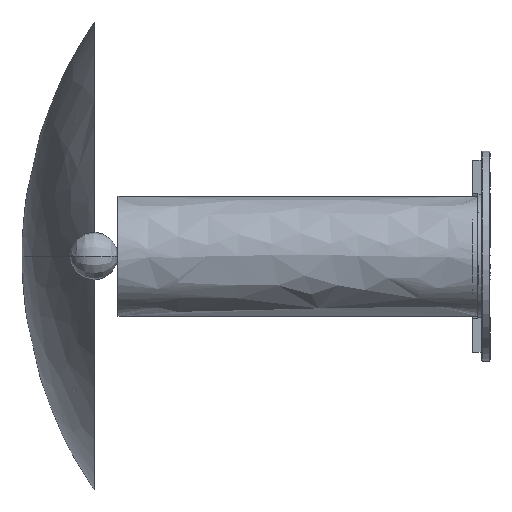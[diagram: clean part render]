
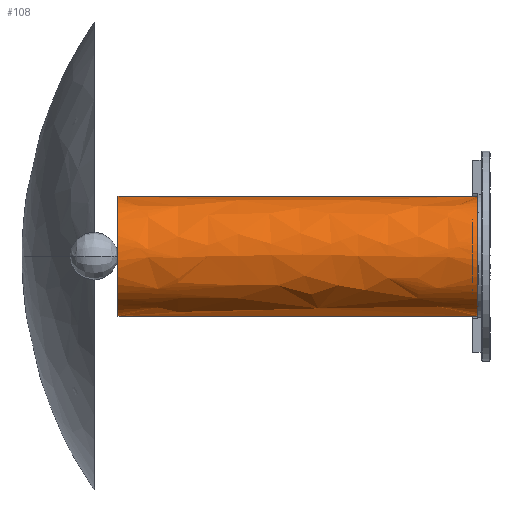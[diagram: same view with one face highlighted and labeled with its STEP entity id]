
A CAD part, left-side view. The second image highlights one B-rep face of the part: STEP entity #108.
In plain terms, the highlighted free-form (B-spline) face has degree [3, 2] with [4, 5] control points.
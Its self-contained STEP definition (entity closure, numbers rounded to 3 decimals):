
#108=ADVANCED_FACE($,(#169),#760,.T.);
#169=FACE_OUTER_BOUND($,#231,.T.);
#231=EDGE_LOOP($,(#363,#364,#365,#366));
#363=ORIENTED_EDGE($,*,*,#578,.T.);
#364=ORIENTED_EDGE($,*,*,#579,.T.);
#365=ORIENTED_EDGE($,*,*,#575,.F.);
#366=ORIENTED_EDGE($,*,*,#577,.T.);
#575=EDGE_CURVE($,#687,#688,#827,.T.);
#577=EDGE_CURVE($,#687,#689,#829,.T.);
#578=EDGE_CURVE($,#689,#690,#830,.T.);
#579=EDGE_CURVE($,#690,#688,#831,.T.);
#687=VERTEX_POINT($,#1554);
#688=VERTEX_POINT($,#1555);
#689=VERTEX_POINT($,#1556);
#690=VERTEX_POINT($,#1557);
#760=(
BOUNDED_SURFACE()
B_SPLINE_SURFACE(3,2,((#1506,#1507,#1508,#1509,#1510),(#1511,#1512,#1513,
#1514,#1515),(#1516,#1517,#1518,#1519,#1520),(#1521,#1522,#1523,#1524,#1525)),
.UNSPECIFIED.,.F.,.F.,.F.)
B_SPLINE_SURFACE_WITH_KNOTS((4,4),(3,2,3),(0.,300.),(-157.08,-78.54,
0.),.UNSPECIFIED.)
GEOMETRIC_REPRESENTATION_ITEM()
RATIONAL_B_SPLINE_SURFACE(((1.,0.707,1.,0.707,1.),
(1.,0.707,1.,0.707,1.),(1.,0.707,1.,
0.707,1.),(1.,0.707,1.,0.707,1.)))
REPRESENTATION_ITEM($)
SURFACE()
);
#827=(
BOUNDED_CURVE()
B_SPLINE_CURVE(3,(#1478,#1479,#1480,#1481),.UNSPECIFIED.,.F.,.F.)
B_SPLINE_CURVE_WITH_KNOTS((4,4),(0.,300.),.UNSPECIFIED.)
CURVE()
GEOMETRIC_REPRESENTATION_ITEM()
RATIONAL_B_SPLINE_CURVE((1.,1.,1.,1.))
REPRESENTATION_ITEM($)
);
#829=(
BOUNDED_CURVE()
B_SPLINE_CURVE(2,(#1487,#1488,#1489,#1490,#1491),.UNSPECIFIED.,.F.,.F.)
B_SPLINE_CURVE_WITH_KNOTS((3,2,3),(0.,78.54,157.08),
.UNSPECIFIED.)
CURVE()
GEOMETRIC_REPRESENTATION_ITEM()
RATIONAL_B_SPLINE_CURVE((1.,0.707,1.,0.707,1.))
REPRESENTATION_ITEM($)
);
#830=(
BOUNDED_CURVE()
B_SPLINE_CURVE(3,(#1492,#1493,#1494,#1495),.UNSPECIFIED.,.F.,.F.)
B_SPLINE_CURVE_WITH_KNOTS((4,4),(0.,300.),.UNSPECIFIED.)
CURVE()
GEOMETRIC_REPRESENTATION_ITEM()
RATIONAL_B_SPLINE_CURVE((1.,1.,1.,1.))
REPRESENTATION_ITEM($)
);
#831=(
BOUNDED_CURVE()
B_SPLINE_CURVE(2,(#1496,#1497,#1498,#1499,#1500),.UNSPECIFIED.,.F.,.F.)
B_SPLINE_CURVE_WITH_KNOTS((3,2,3),(-157.08,-78.54,0.),
.UNSPECIFIED.)
CURVE()
GEOMETRIC_REPRESENTATION_ITEM()
RATIONAL_B_SPLINE_CURVE((1.,0.707,1.,0.707,1.))
REPRESENTATION_ITEM($)
);
#1478=CARTESIAN_POINT($,(458.39,3881.208,-50.));
#1479=CARTESIAN_POINT($,(458.39,3981.208,-50.));
#1480=CARTESIAN_POINT($,(458.39,4081.208,-50.));
#1481=CARTESIAN_POINT($,(458.39,4181.208,-50.));
#1487=CARTESIAN_POINT($,(458.39,3881.208,-50.));
#1488=CARTESIAN_POINT($,(408.39,3881.208,-50.));
#1489=CARTESIAN_POINT($,(408.39,3881.208,0.));
#1490=CARTESIAN_POINT($,(408.39,3881.208,50.));
#1491=CARTESIAN_POINT($,(458.39,3881.208,50.));
#1492=CARTESIAN_POINT($,(458.39,3881.208,50.));
#1493=CARTESIAN_POINT($,(458.39,3981.208,50.));
#1494=CARTESIAN_POINT($,(458.39,4081.208,50.));
#1495=CARTESIAN_POINT($,(458.39,4181.208,50.));
#1496=CARTESIAN_POINT($,(458.39,4181.208,50.));
#1497=CARTESIAN_POINT($,(408.39,4181.208,50.));
#1498=CARTESIAN_POINT($,(408.39,4181.208,0.));
#1499=CARTESIAN_POINT($,(408.39,4181.208,-50.));
#1500=CARTESIAN_POINT($,(458.39,4181.208,-50.));
#1506=CARTESIAN_POINT($,(458.39,3881.208,50.));
#1507=CARTESIAN_POINT($,(408.39,3881.208,50.));
#1508=CARTESIAN_POINT($,(408.39,3881.208,0.));
#1509=CARTESIAN_POINT($,(408.39,3881.208,-50.));
#1510=CARTESIAN_POINT($,(458.39,3881.208,-50.));
#1511=CARTESIAN_POINT($,(458.39,3981.208,50.));
#1512=CARTESIAN_POINT($,(408.39,3981.208,50.));
#1513=CARTESIAN_POINT($,(408.39,3981.208,0.));
#1514=CARTESIAN_POINT($,(408.39,3981.208,-50.));
#1515=CARTESIAN_POINT($,(458.39,3981.208,-50.));
#1516=CARTESIAN_POINT($,(458.39,4081.208,50.));
#1517=CARTESIAN_POINT($,(408.39,4081.208,50.));
#1518=CARTESIAN_POINT($,(408.39,4081.208,0.));
#1519=CARTESIAN_POINT($,(408.39,4081.208,-50.));
#1520=CARTESIAN_POINT($,(458.39,4081.208,-50.));
#1521=CARTESIAN_POINT($,(458.39,4181.208,50.));
#1522=CARTESIAN_POINT($,(408.39,4181.208,50.));
#1523=CARTESIAN_POINT($,(408.39,4181.208,0.));
#1524=CARTESIAN_POINT($,(408.39,4181.208,-50.));
#1525=CARTESIAN_POINT($,(458.39,4181.208,-50.));
#1554=CARTESIAN_POINT($,(458.39,3881.208,-50.));
#1555=CARTESIAN_POINT($,(458.39,4181.208,-50.));
#1556=CARTESIAN_POINT($,(458.39,3881.208,50.));
#1557=CARTESIAN_POINT($,(458.39,4181.208,50.));
